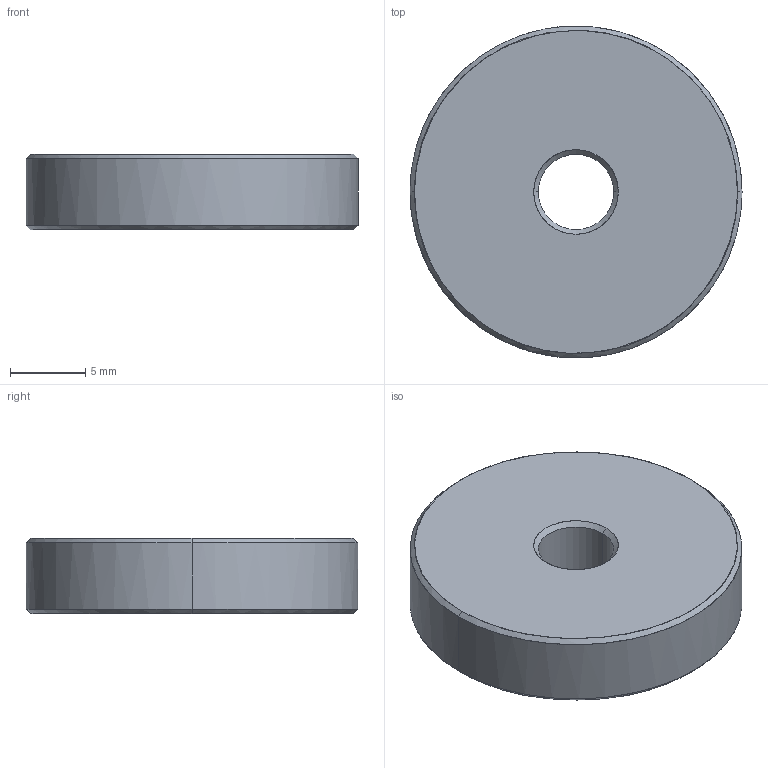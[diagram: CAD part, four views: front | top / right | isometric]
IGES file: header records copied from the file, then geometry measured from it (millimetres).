
Global section: file name: E:\UnigraphicsGraphicData\MISUMI_PRESS-PARTS\IGES\3d_r8-22_00104_r00.igs; native system: NX V5.0; preprocessor: UGS NX IGES V5.0; author: MISUMI; date: 20110105.162335; units: millimetre
Bounding box: 22 x 21.97 x 5 mm (x, y, z)
Surface area: 1112.2 mm2 (no closed solid volume)
Topology: 0 solids, 0 shells, 14 faces, 80 edges, 80 vertices
Faces by surface type: bspline 14
